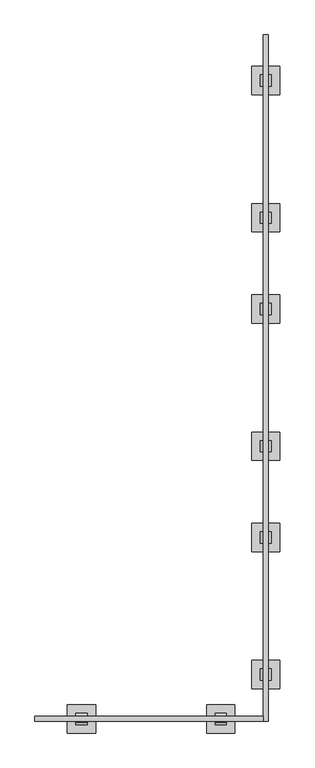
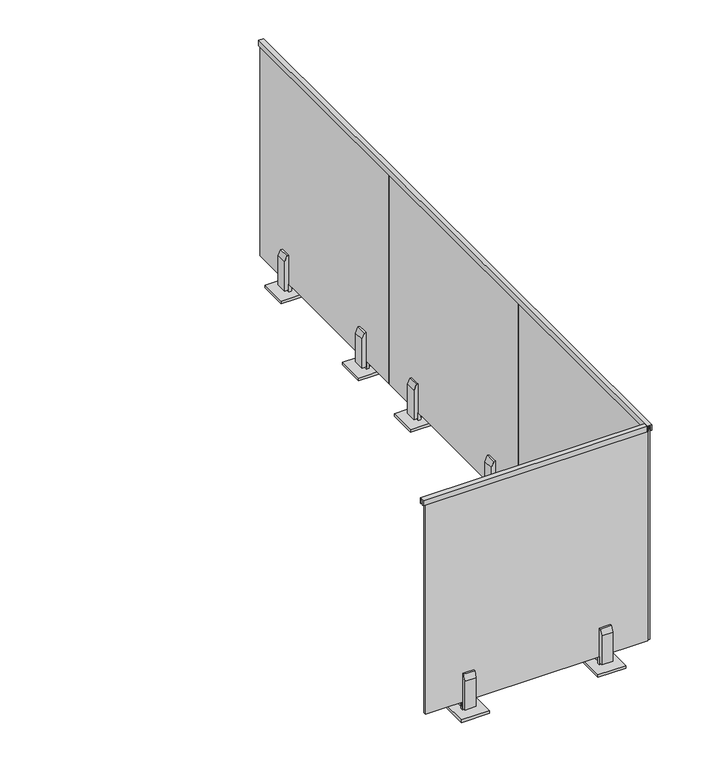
"""IFC4 building model written with IfcOpenShell, lengths in millimetres: railing geometry, VIVA-VISIO-Glass-Concrete Surface Mount-Straight."""

from ifc_helpers import new_model, si_unit, frame, origin, place, context, project, spatial, polyline, outline, extrude, source, transform, mapped, element, save


def railing_03c17f37(model_context):
    return source(origin(), model_context, "Body", "SweptSolid", [
        extrude(outline(polyline([(-1383.8473017, 4140.2), (-1383.8473017, 4114.8), (-1388.3617549, 4114.8), (-1388.3617549, 4136.39), (-1401.0617549, 4136.39), (-1401.0617549, 4114.8), (-1405.576208, 4114.8), (-1405.576208, 4140.2), (-1383.8473017, 4140.2)])), frame((30452.8112561, 0.0, 0.0), z_axis=(1.0, 0.0, 0.0), x_axis=(0.0, 1.0, 0.0)), (0.0, 0.0, 1.0), 1024.1855469),
        extrude(outline(polyline([(4140.2, 31476.9968029), (4114.8, 31476.9968029), (4114.8, 31481.5112561), (4136.39, 31481.5112561), (4136.39, 31494.2112561), (4114.8, 31494.2112561), (4114.8, 31498.7257092), (4140.2, 31498.7257092), (4140.2, 31476.9968029)])), frame((0.0, -1405.576208, 0.0), z_axis=(0.0, 1.0, 0.0), x_axis=(0.0, 0.0, 1.0)), (0.0, 0.0, 1.0), 3077.9144531),
        extrude(outline(polyline([(31424.3612561, 1530.9449118), (31551.3612561, 1530.9449118), (31551.3612561, 1403.9449118), (31424.3612561, 1403.9449118), (31424.3612561, 1530.9449118)])), frame((0.0, 0.0, 3048.0), z_axis=(0.0, 0.0, 1.0), x_axis=(1.0, 0.0, 0.0)), (0.0, 0.0, 1.0), 12.7),
        extrude(outline(polyline([(31481.5112561, 1442.0449118), (31481.5112561, 1492.8449118), (31494.2112561, 1492.8449118), (31494.2112561, 1442.0449118), (31481.5112561, 1442.0449118)])), frame((0.0, 0.0, 3048.0), z_axis=(0.0, 0.0, 1.0), x_axis=(1.0, 0.0, 0.0)), (0.0, 0.0, 1.0), 50.8),
        extrude(outline(polyline([(3071.8125, 31462.4612561), (3071.8125, 31481.5112561), (3238.5, 31481.5112561), (3238.5, 31473.5737561), (3211.5125, 31462.4612561), (3071.8125, 31462.4612561)])), frame((0.0, 1442.0449118, 0.0), z_axis=(0.0, 1.0, 0.0), x_axis=(0.0, 0.0, 1.0)), (0.0, 0.0, 1.0), 50.8),
        extrude(outline(polyline([(3071.8125, 31513.2612561), (3211.5125, 31513.2612561), (3238.5, 31502.1487561), (3238.5, 31494.2112561), (3071.8125, 31494.2112561), (3071.8125, 31513.2612561)])), frame((0.0, 1442.0449118, 0.0), z_axis=(0.0, 1.0, 0.0), x_axis=(0.0, 0.0, 1.0)), (0.0, 0.0, 1.0), 50.8),
        extrude(outline(polyline([(31481.5112561, 652.4879584), (31481.5112561, 1668.4879584), (31494.2112561, 1668.4879584), (31494.2112561, 652.4879584), (31481.5112561, 652.4879584)])), frame((0.0, 0.0, 3098.8), z_axis=(0.0, 0.0, 1.0), x_axis=(1.0, 0.0, 0.0)), (0.0, 0.0, 1.0), 1036.0025),
        extrude(outline(polyline([(31424.3612561, 916.2649118), (31551.3612561, 916.2649118), (31551.3612561, 789.2649118), (31424.3612561, 789.2649118), (31424.3612561, 916.2649118)])), frame((0.0, 0.0, 3048.0), z_axis=(0.0, 0.0, 1.0), x_axis=(1.0, 0.0, 0.0)), (0.0, 0.0, 1.0), 12.7),
        extrude(outline(polyline([(31481.5112561, 827.3649118), (31481.5112561, 878.1649118), (31494.2112561, 878.1649118), (31494.2112561, 827.3649118), (31481.5112561, 827.3649118)])), frame((0.0, 0.0, 3048.0), z_axis=(0.0, 0.0, 1.0), x_axis=(1.0, 0.0, 0.0)), (0.0, 0.0, 1.0), 50.8),
        extrude(outline(polyline([(3071.8125, 31462.4612561), (3071.8125, 31481.5112561), (3238.5, 31481.5112561), (3238.5, 31473.5737561), (3211.5125, 31462.4612561), (3071.8125, 31462.4612561)])), frame((0.0, 827.3649118, 0.0), z_axis=(0.0, 1.0, 0.0), x_axis=(0.0, 0.0, 1.0)), (0.0, 0.0, 1.0), 50.8),
        extrude(outline(polyline([(3071.8125, 31513.2612561), (3211.5125, 31513.2612561), (3238.5, 31502.1487561), (3238.5, 31494.2112561), (3071.8125, 31494.2112561), (3071.8125, 31513.2612561)])), frame((0.0, 827.3649118, 0.0), z_axis=(0.0, 1.0, 0.0), x_axis=(0.0, 0.0, 1.0)), (0.0, 0.0, 1.0), 50.8),
        extrude(outline(polyline([(31424.3612561, 506.4782451), (31551.3612561, 506.4782451), (31551.3612561, 379.4782451), (31424.3612561, 379.4782451), (31424.3612561, 506.4782451)])), frame((0.0, 0.0, 3048.0), z_axis=(0.0, 0.0, 1.0), x_axis=(1.0, 0.0, 0.0)), (0.0, 0.0, 1.0), 12.7),
        extrude(outline(polyline([(31481.5112561, 417.5782451), (31481.5112561, 468.3782451), (31494.2112561, 468.3782451), (31494.2112561, 417.5782451), (31481.5112561, 417.5782451)])), frame((0.0, 0.0, 3048.0), z_axis=(0.0, 0.0, 1.0), x_axis=(1.0, 0.0, 0.0)), (0.0, 0.0, 1.0), 50.8),
        extrude(outline(polyline([(3071.8125, 31462.4612561), (3071.8125, 31481.5112561), (3238.5, 31481.5112561), (3238.5, 31473.5737561), (3211.5125, 31462.4612561), (3071.8125, 31462.4612561)])), frame((0.0, 417.5782451, 0.0), z_axis=(0.0, 1.0, 0.0), x_axis=(0.0, 0.0, 1.0)), (0.0, 0.0, 1.0), 50.8),
        extrude(outline(polyline([(3071.8125, 31513.2612561), (3211.5125, 31513.2612561), (3238.5, 31502.1487561), (3238.5, 31494.2112561), (3071.8125, 31494.2112561), (3071.8125, 31513.2612561)])), frame((0.0, 417.5782451, 0.0), z_axis=(0.0, 1.0, 0.0), x_axis=(0.0, 0.0, 1.0)), (0.0, 0.0, 1.0), 50.8),
        extrude(outline(polyline([(31481.5112561, -371.9787083), (31481.5112561, 644.0212917), (31494.2112561, 644.0212917), (31494.2112561, -371.9787083), (31481.5112561, -371.9787083)])), frame((0.0, 0.0, 3098.8), z_axis=(0.0, 0.0, 1.0), x_axis=(1.0, 0.0, 0.0)), (0.0, 0.0, 1.0), 1036.0025),
        extrude(outline(polyline([(31424.3612561, -108.2017549), (31551.3612561, -108.2017549), (31551.3612561, -235.2017549), (31424.3612561, -235.2017549), (31424.3612561, -108.2017549)])), frame((0.0, 0.0, 3048.0), z_axis=(0.0, 0.0, 1.0), x_axis=(1.0, 0.0, 0.0)), (0.0, 0.0, 1.0), 12.7),
        extrude(outline(polyline([(31481.5112561, -197.1017549), (31481.5112561, -146.3017549), (31494.2112561, -146.3017549), (31494.2112561, -197.1017549), (31481.5112561, -197.1017549)])), frame((0.0, 0.0, 3048.0), z_axis=(0.0, 0.0, 1.0), x_axis=(1.0, 0.0, 0.0)), (0.0, 0.0, 1.0), 50.8),
        extrude(outline(polyline([(3071.8125, 31462.4612561), (3071.8125, 31481.5112561), (3238.5, 31481.5112561), (3238.5, 31473.5737561), (3211.5125, 31462.4612561), (3071.8125, 31462.4612561)])), frame((0.0, -197.1017549, 0.0), z_axis=(0.0, 1.0, 0.0), x_axis=(0.0, 0.0, 1.0)), (0.0, 0.0, 1.0), 50.8),
        extrude(outline(polyline([(3071.8125, 31513.2612561), (3211.5125, 31513.2612561), (3238.5, 31502.1487561), (3238.5, 31494.2112561), (3071.8125, 31494.2112561), (3071.8125, 31513.2612561)])), frame((0.0, -197.1017549, 0.0), z_axis=(0.0, 1.0, 0.0), x_axis=(0.0, 0.0, 1.0)), (0.0, 0.0, 1.0), 50.8),
        extrude(outline(polyline([(31424.3612561, -517.9884215), (31551.3612561, -517.9884215), (31551.3612561, -644.9884215), (31424.3612561, -644.9884215), (31424.3612561, -517.9884215)])), frame((0.0, 0.0, 3048.0), z_axis=(0.0, 0.0, 1.0), x_axis=(1.0, 0.0, 0.0)), (0.0, 0.0, 1.0), 12.7),
        extrude(outline(polyline([(31481.5112561, -606.8884215), (31481.5112561, -556.0884215), (31494.2112561, -556.0884215), (31494.2112561, -606.8884215), (31481.5112561, -606.8884215)])), frame((0.0, 0.0, 3048.0), z_axis=(0.0, 0.0, 1.0), x_axis=(1.0, 0.0, 0.0)), (0.0, 0.0, 1.0), 50.8),
        extrude(outline(polyline([(3071.8125, 31462.4612561), (3071.8125, 31481.5112561), (3238.5, 31481.5112561), (3238.5, 31473.5737561), (3211.5125, 31462.4612561), (3071.8125, 31462.4612561)])), frame((0.0, -606.8884215, 0.0), z_axis=(0.0, 1.0, 0.0), x_axis=(0.0, 0.0, 1.0)), (0.0, 0.0, 1.0), 50.8),
        extrude(outline(polyline([(3071.8125, 31513.2612561), (3211.5125, 31513.2612561), (3238.5, 31502.1487561), (3238.5, 31494.2112561), (3071.8125, 31494.2112561), (3071.8125, 31513.2612561)])), frame((0.0, -606.8884215, 0.0), z_axis=(0.0, 1.0, 0.0), x_axis=(0.0, 0.0, 1.0)), (0.0, 0.0, 1.0), 50.8),
        extrude(outline(polyline([(31481.5112561, -1396.4453749), (31481.5112561, -380.4453749), (31494.2112561, -380.4453749), (31494.2112561, -1396.4453749), (31481.5112561, -1396.4453749)])), frame((0.0, 0.0, 3098.8), z_axis=(0.0, 0.0, 1.0), x_axis=(1.0, 0.0, 0.0)), (0.0, 0.0, 1.0), 1036.0025),
        extrude(outline(polyline([(31424.3612561, -1132.6684215), (31551.3612561, -1132.6684215), (31551.3612561, -1259.6684215), (31424.3612561, -1259.6684215), (31424.3612561, -1132.6684215)])), frame((0.0, 0.0, 3048.0), z_axis=(0.0, 0.0, 1.0), x_axis=(1.0, 0.0, 0.0)), (0.0, 0.0, 1.0), 12.7),
        extrude(outline(polyline([(31481.5112561, -1221.5684215), (31481.5112561, -1170.7684215), (31494.2112561, -1170.7684215), (31494.2112561, -1221.5684215), (31481.5112561, -1221.5684215)])), frame((0.0, 0.0, 3048.0), z_axis=(0.0, 0.0, 1.0), x_axis=(1.0, 0.0, 0.0)), (0.0, 0.0, 1.0), 50.8),
        extrude(outline(polyline([(3071.8125, 31462.4612561), (3071.8125, 31481.5112561), (3238.5, 31481.5112561), (3238.5, 31473.5737561), (3211.5125, 31462.4612561), (3071.8125, 31462.4612561)])), frame((0.0, -1221.5684215, 0.0), z_axis=(0.0, 1.0, 0.0), x_axis=(0.0, 0.0, 1.0)), (0.0, 0.0, 1.0), 50.8),
        extrude(outline(polyline([(3071.8125, 31513.2612561), (3211.5125, 31513.2612561), (3238.5, 31502.1487561), (3238.5, 31494.2112561), (3071.8125, 31494.2112561), (3071.8125, 31513.2612561)])), frame((0.0, -1221.5684215, 0.0), z_axis=(0.0, 1.0, 0.0), x_axis=(0.0, 0.0, 1.0)), (0.0, 0.0, 1.0), 50.8),
        extrude(outline(polyline([(31349.4312561, -1331.2117549), (31349.4312561, -1458.2117549), (31222.4312561, -1458.2117549), (31222.4312561, -1331.2117549), (31349.4312561, -1331.2117549)])), frame((0.0, 0.0, 3048.0), z_axis=(0.0, 0.0, 1.0), x_axis=(1.0, 0.0, 0.0)), (0.0, 0.0, 1.0), 12.7),
        extrude(outline(polyline([(31260.5312561, -1388.3617549), (31311.3312561, -1388.3617549), (31311.3312561, -1401.0617549), (31260.5312561, -1401.0617549), (31260.5312561, -1388.3617549)])), frame((0.0, 0.0, 3048.0), z_axis=(0.0, 0.0, 1.0), x_axis=(1.0, 0.0, 0.0)), (0.0, 0.0, 1.0), 50.8),
        extrude(outline(polyline([(-1369.3117549, 3071.8125), (-1388.3617549, 3071.8125), (-1388.3617549, 3238.5), (-1380.4242549, 3238.5), (-1369.3117549, 3211.5125), (-1369.3117549, 3071.8125)])), frame((31260.5312561, 0.0, 0.0), z_axis=(1.0, 0.0, 0.0), x_axis=(0.0, 1.0, 0.0)), (0.0, 0.0, 1.0), 50.8),
        extrude(outline(polyline([(-1420.1117549, 3071.8125), (-1420.1117549, 3211.5125), (-1408.9992549, 3238.5), (-1401.0617549, 3238.5), (-1401.0617549, 3071.8125), (-1420.1117549, 3071.8125)])), frame((31260.5312561, 0.0, 0.0), z_axis=(1.0, 0.0, 0.0), x_axis=(0.0, 1.0, 0.0)), (0.0, 0.0, 1.0), 50.8),
        extrude(outline(polyline([(30465.8943027, -1388.3617549), (31481.8943027, -1388.3617549), (31481.8943027, -1401.0617549), (30465.8943027, -1401.0617549), (30465.8943027, -1388.3617549)])), frame((0.0, 0.0, 3098.8), z_axis=(0.0, 0.0, 1.0), x_axis=(1.0, 0.0, 0.0)), (0.0, 0.0, 1.0), 1036.0025),
        extrude(outline(polyline([(30724.5912561, -1331.2117549), (30724.5912561, -1458.2117549), (30597.5912561, -1458.2117549), (30597.5912561, -1331.2117549), (30724.5912561, -1331.2117549)])), frame((0.0, 0.0, 3048.0), z_axis=(0.0, 0.0, 1.0), x_axis=(1.0, 0.0, 0.0)), (0.0, 0.0, 1.0), 12.7),
        extrude(outline(polyline([(30635.6912561, -1388.3617549), (30686.4912561, -1388.3617549), (30686.4912561, -1401.0617549), (30635.6912561, -1401.0617549), (30635.6912561, -1388.3617549)])), frame((0.0, 0.0, 3048.0), z_axis=(0.0, 0.0, 1.0), x_axis=(1.0, 0.0, 0.0)), (0.0, 0.0, 1.0), 50.8),
        extrude(outline(polyline([(-1369.3117549, 3071.8125), (-1388.3617549, 3071.8125), (-1388.3617549, 3238.5), (-1380.4242549, 3238.5), (-1369.3117549, 3211.5125), (-1369.3117549, 3071.8125)])), frame((30635.6912561, 0.0, 0.0), z_axis=(1.0, 0.0, 0.0), x_axis=(0.0, 1.0, 0.0)), (0.0, 0.0, 1.0), 50.8),
        extrude(outline(polyline([(-1420.1117549, 3071.8125), (-1420.1117549, 3211.5125), (-1408.9992549, 3238.5), (-1401.0617549, 3238.5), (-1401.0617549, 3071.8125), (-1420.1117549, 3071.8125)])), frame((30635.6912561, 0.0, 0.0), z_axis=(1.0, 0.0, 0.0), x_axis=(0.0, 1.0, 0.0)), (0.0, 0.0, 1.0), 50.8),
    ])


if __name__ == "__main__":
    model = new_model("IFC4")
    model_context = context("Model", 3, world=origin())
    ifc_project = project(units=[si_unit("LENGTHUNIT", "METRE", prefix="MILLI")], contexts=[model_context])
    site = spatial("IfcSite", under=ifc_project)
    building = spatial("IfcBuilding", under=site)
    placement = place(None, origin())
    railing_shape = railing_03c17f37(model_context)
    element("IfcRailing", 1, ObjectType="VIVA-VISIO-Glass-Concrete Surface Mount-Straight", at=placement, inside=building, context=model_context, shape_type="MappedRepresentation", body=[
        mapped(railing_shape, transform((0.0, 0.0, 0.0), x_axis=(1.0, 0.0, 0.0), y_axis=(0.0, 1.0, 0.0), z_axis=(0.0, 0.0, 1.0))),
    ])
    save(model, "model.ifc")
